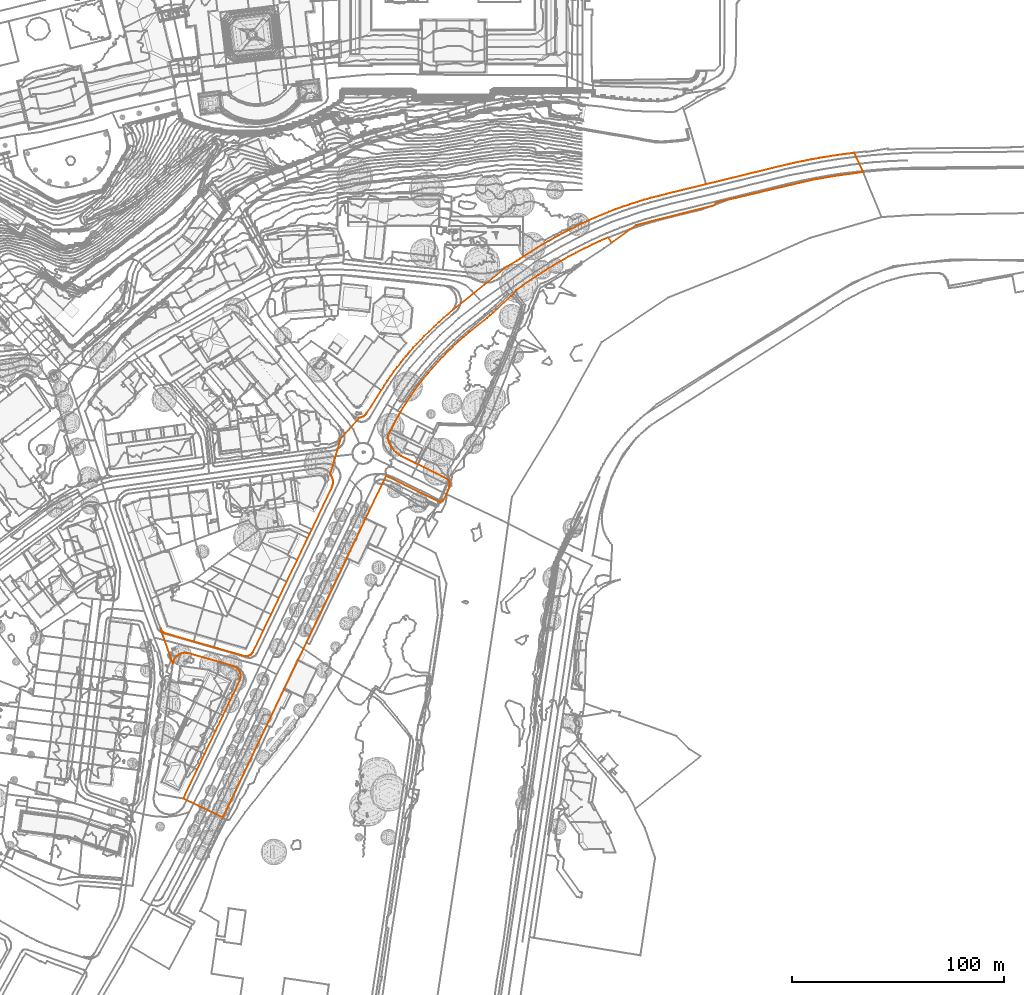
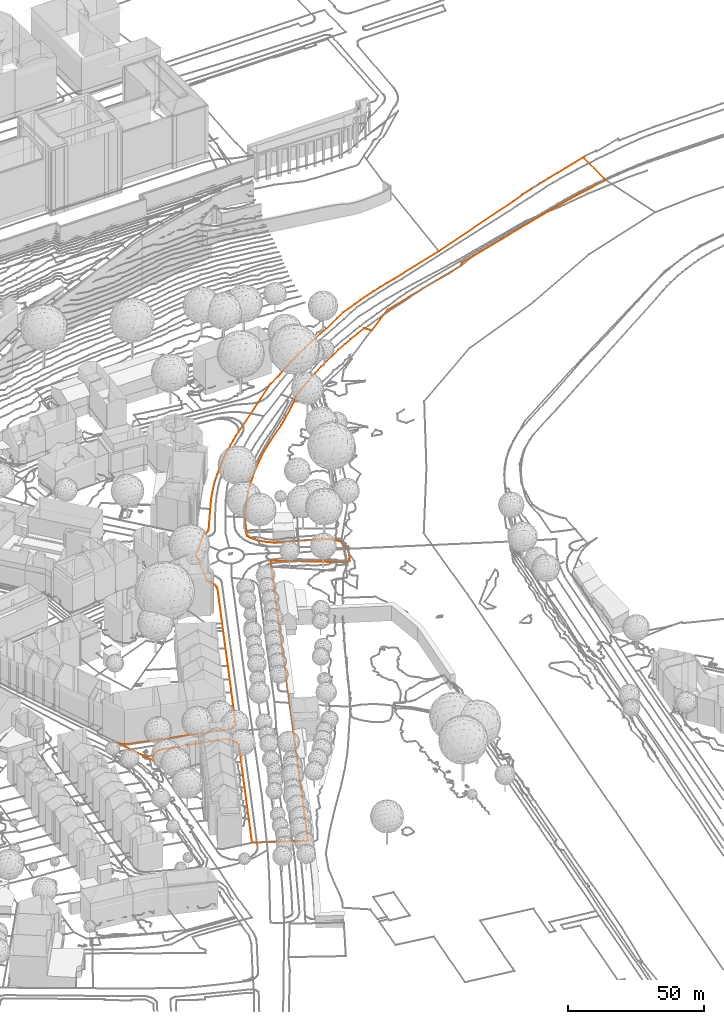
# Not in any storey, part 194 of 494: 1 proxy.
"""IFC2X3 model written with IfcOpenShell, lengths in metres."""

from ifc_helpers import new_model, entity, si_unit, frame, origin_with_axes, place, context, subcontext, project, element, save


model = new_model("IFC2X3")

# Units and contexts
model_context = context("Model", 3, precision=1e-05, world=origin_with_axes())
body_context = subcontext(model_context, "Body", "Model", "MODEL_VIEW")
ifc_project = project(units=[si_unit("AREAUNIT", "SQUARE_METRE"), si_unit("LENGTHUNIT", "METRE")], contexts=[model_context])

# Proxy
proxy_placement = place(None, frame((488.9107320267, 106.9207160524, 502.2250118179), z_axis=(0.0, 0.0, 1.0), x_axis=(1.0, 0.0, 0.0)))
element("IfcBuildingElementProxy", 1, at=proxy_placement, Name="Cadastre 116", ObjectType="NOTDEFINED", context=body_context, shape_type="GeometricCurveSet", body=[
    entity("IfcGeometricCurveSet", [entity("IfcPolyline", [entity("IfcCartesianPoint", [0.0, 0.0, 0.0]), entity("IfcCartesianPoint", [0.233, -0.544, -0.0039282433]), entity("IfcCartesianPoint", [0.5350000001, -1.054, -0.0188884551]), entity("IfcCartesianPoint", [0.8999999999, -1.52, -0.045437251]), entity("IfcCartesianPoint", [1.23, -1.8189999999, -0.067840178]), entity("IfcCartesianPoint", [1.5899999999, -2.0819999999, -0.0652185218]), entity("IfcCartesianPoint", [1.9739999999, -2.3059999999, -0.0197665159]), entity("IfcCartesianPoint", [2.3799999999, -2.49, -0.0059848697]), entity("IfcCartesianPoint", [15.6979999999, -6.3200000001, -0.0504612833]), entity("IfcCartesianPoint", [25.2680000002, -9.0700000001, 0.1001833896]), entity("IfcCartesianPoint", [39.5460000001, -13.1799999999, 0.0694859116]), entity("IfcCartesianPoint", [40.0279999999, -13.277, 0.0698380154]), entity("IfcCartesianPoint", [40.5189999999, -13.3089999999, 0.0808435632]), entity("IfcCartesianPoint", [41.0100000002, -13.274, 0.0967271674]), entity("IfcCartesianPoint", [41.4920000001, -13.1739999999, 0.1170097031]), entity("IfcCartesianPoint", [41.9560000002, -13.01, 0.1400230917]), entity("IfcCartesianPoint", [42.3859999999, -12.78, 0.1683778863]), entity("IfcCartesianPoint", [42.7820000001, -12.4939999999, 0.1962970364]), entity("IfcCartesianPoint", [43.1359999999, -12.1580000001, 0.2162374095]), entity("IfcCartesianPoint", [43.4420000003, -11.7779999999, 0.2343439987]), entity("IfcCartesianPoint", [43.6949999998, -11.3599999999, 0.2527268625]), entity("IfcCartesianPoint", [48.5640000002, -1.199, 0.2967724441]), entity("IfcCartesianPoint", [52.2439999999, 6.4710000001, 0.3085184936]), entity("IfcCartesianPoint", [55.9530000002, 14.2110000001, 0.2364327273]), entity("IfcCartesianPoint", [59.6520000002, 21.9410000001, 0.2159597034]), entity("IfcCartesianPoint", [70.4100000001, 44.382, 0.0998148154]), entity("IfcCartesianPoint", [71.5, 46.642, 0.1432449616]), entity("IfcCartesianPoint", [80.9180000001, 66.2930000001, 0.1682741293]), entity("IfcCartesianPoint", [81.1839999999, 66.9410000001, 0.1559326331]), entity("IfcCartesianPoint", [81.3799999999, 67.6140000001, 0.1561602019]), entity("IfcCartesianPoint", [81.5019999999, 68.3030000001, 0.1585750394]), entity("IfcCartesianPoint", [81.551, 69.0020000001, 0.1735173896]), entity("IfcCartesianPoint", [81.5240000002, 69.702, 0.2105089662]), entity("IfcCartesianPoint", [81.423, 70.395, 0.2264767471]), entity("IfcCartesianPoint", [81.2480000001, 71.074, 0.2442947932]), entity("IfcCartesianPoint", [81.0019999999, 71.7290000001, 0.3076877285]), entity("IfcCartesianPoint", [80.6880000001, 72.355, 0.3529058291]), entity("IfcCartesianPoint", [80.3080000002, 72.9440000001, 0.3657182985]), entity("IfcCartesianPoint", [85.2069999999, 89.5150000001, 0.3450140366]), entity("IfcCartesianPoint", [93.997, 99.507, 0.4002360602]), entity("IfcCartesianPoint", [94.5869999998, 99.5889999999, 0.3911777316]), entity("IfcCartesianPoint", [95.1609999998, 99.75, 0.3837855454]), entity("IfcCartesianPoint", [95.7080000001, 99.9850000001, 0.3953497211]), entity("IfcCartesianPoint", [96.219, 100.2920000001, 0.3955752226]), entity("IfcCartesianPoint", [96.6839999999, 100.6640000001, 0.3888778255]), entity("IfcCartesianPoint", [97.0959999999, 101.095, 0.3957712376]), entity("IfcCartesianPoint", [97.446, 101.577, 0.4009718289]), entity("IfcCartesianPoint", [99.486, 104.7879999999, 0.4029960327]), entity("IfcCartesianPoint", [104.355, 112.389, 0.3442920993]), entity("IfcCartesianPoint", [105.7620000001, 114.622, 0.3481246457]), entity("IfcCartesianPoint", [107.2110000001, 116.828, 0.3306323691]), entity("IfcCartesianPoint", [108.7039999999, 119.0050000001, 0.3053488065]), entity("IfcCartesianPoint", [110.2379999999, 121.1529999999, 0.3070003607]), entity("IfcCartesianPoint", [111.8140000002, 123.27, 0.2886427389]), entity("IfcCartesianPoint", [113.7600000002, 125.767, 0.2454882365]), entity("IfcCartesianPoint", [115.7630000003, 128.2180000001, 0.2476532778]), entity("IfcCartesianPoint", [117.824, 130.621, 0.2012455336]), entity("IfcCartesianPoint", [119.4870000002, 132.496, 0.1540231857]), entity("IfcCartesianPoint", [121.1850000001, 134.3400000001, 0.1146757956]), entity("IfcCartesianPoint", [122.9169999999, 136.152, 0.1170354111]), entity("IfcCartesianPoint", [124.6830000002, 137.932, 0.1181130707]), entity("IfcCartesianPoint", [126.9840000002, 140.2380000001, 0.1049187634]), entity("IfcCartesianPoint", [129.3280000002, 142.5020000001, 0.1164811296]), entity("IfcCartesianPoint", [131.7119999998, 144.723, 0.1100668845]), entity("IfcCartesianPoint", [133.8870000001, 146.6799999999, 0.1182599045]), entity("IfcCartesianPoint", [136.094, 148.6000000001, 0.0955614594]), entity("IfcCartesianPoint", [138.3319999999, 150.4839999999, 0.0880390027]), entity("IfcCartesianPoint", [163.8190000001, 170.942, 0.4151730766]), entity("IfcCartesianPoint", [168.5989999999, 173.6780000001, 0.401261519]), entity("IfcCartesianPoint", [170.0279999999, 174.6500000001, 0.3904525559]), entity("IfcCartesianPoint", [171.4649999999, 175.611, 0.3862559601]), entity("IfcCartesianPoint", [174.4220000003, 177.534, 0.3855604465]), entity("IfcCartesianPoint", [177.4100000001, 179.4070000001, 0.4067722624]), entity("IfcCartesianPoint", [180.4300000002, 181.23, 0.4215103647]), entity("IfcCartesianPoint", [183.4789999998, 183.0020000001, 0.4536202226]), entity("IfcCartesianPoint", [186.5580000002, 184.7220000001, 0.4751384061]), entity("IfcCartesianPoint", [189.6660000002, 186.3900000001, 0.4883446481]), entity("IfcCartesianPoint", [192.77, 188.031, 0.4893652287]), entity("IfcCartesianPoint", [195.9020000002, 189.6189999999, 0.4898440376]), entity("IfcCartesianPoint", [199.0600000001, 191.155, 0.5342730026]), entity("IfcCartesianPoint", [202.2420000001, 192.638, 0.8024908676]), entity("IfcCartesianPoint", [205.4500000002, 194.067, 1.3710353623]), entity("IfcCartesianPoint", [208.6809999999, 195.442, 1.8010212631]), entity("IfcCartesianPoint", [211.9339999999, 196.763, 1.8202647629]), entity("IfcCartesianPoint", [215.2220000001, 198.0060000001, 1.8785860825]), entity("IfcCartesianPoint", [218.5300000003, 199.1950000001, 1.9043203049]), entity("IfcCartesianPoint", [221.8569999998, 200.327, 2.0016997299]), entity("IfcCartesianPoint", [225.2039999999, 201.4029999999, 2.0708905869]), entity("IfcCartesianPoint", [228.5670000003, 202.423, 2.1023938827]), entity("IfcCartesianPoint", [231.9479999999, 203.3870000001, 2.1653035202]), entity("IfcCartesianPoint", [235.344, 204.2930000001, 2.21798452]), entity("IfcCartesianPoint", [257.906, 209.8119999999, 3.6311072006]), entity("IfcCartesianPoint", [294.909, 218.8730000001, 7.6492834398]), entity("IfcCartesianPoint", [299.0860000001, 219.8119999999, 8.453008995]), entity("IfcCartesianPoint", [303.2760000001, 220.6940000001, 8.9941114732]), entity("IfcCartesianPoint", [307.4780000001, 221.5179999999, 9.4353187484]), entity("IfcCartesianPoint", [311.6910000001, 222.2830000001, 9.9729201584]), entity("IfcCartesianPoint", [315.73, 222.9539999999, 10.4958915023]), entity("IfcCartesianPoint", [319.7779999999, 223.5719999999, 10.9794583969]), entity("IfcCartesianPoint", [323.8330000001, 224.1370000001, 11.671531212]), entity("IfcCartesianPoint", [327.8960000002, 224.648, 12.4014465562]), entity("IfcCartesianPoint", [332.173, 215.5719999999, 5.9960027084]), entity("IfcCartesianPoint", [318.8620000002, 213.7120000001, 5.0900056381]), entity("IfcCartesianPoint", [308.2710000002, 211.872, 4.2491189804]), entity("IfcCartesianPoint", [262.557, 201.1410000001, 2.0612159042]), entity("IfcCartesianPoint", [261.4369999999, 199.7210000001, 1.9383350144]), entity("IfcCartesianPoint", [224.824, 190.473, 0.4921100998]), entity("IfcCartesianPoint", [213.3140000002, 182.172, 0.2908956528]), entity("IfcCartesianPoint", [211.514, 184.672, 0.3553947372]), entity("IfcCartesianPoint", [207.6890000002, 182.9820000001, 0.2719366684]), entity("IfcCartesianPoint", [203.8969999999, 181.219, 0.3274793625]), entity("IfcCartesianPoint", [200.139, 179.385, 0.3650869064]), entity("IfcCartesianPoint", [196.4160000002, 177.48, 0.3013289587]), entity("IfcCartesianPoint", [192.7379999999, 175.497, 0.2722796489]), entity("IfcCartesianPoint", [189.0980000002, 173.446, 0.2241165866]), entity("IfcCartesianPoint", [185.497, 171.3260000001, 0.2576722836]), entity("IfcCartesianPoint", [181.9369999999, 169.139, 0.2465030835]), entity("IfcCartesianPoint", [178.4190000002, 166.892, 0.2417304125]), entity("IfcCartesianPoint", [174.9440000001, 164.5789999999, 0.1379128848]), entity("IfcCartesianPoint", [171.514, 162.2, 0.1247272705]), entity("IfcCartesianPoint", [168.1290000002, 159.757, 0.1554030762]), entity("IfcCartesianPoint", [165.7489999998, 157.0260000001, 0.0872396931]), entity("IfcCartesianPoint", [158.6699999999, 150.4550000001, 0.0123942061]), entity("IfcCartesianPoint", [157.2489999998, 149.142, 0.00314156]), entity("IfcCartesianPoint", [155.7919999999, 147.868, -0.0189717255]), entity("IfcCartesianPoint", [154.3000000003, 146.635, -0.0426575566]), entity("IfcCartesianPoint", [145.9109999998, 139.8640000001, -0.0047096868]), entity("IfcCartesianPoint", [143.2940000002, 137.649, 0.0053960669]), entity("IfcCartesianPoint", [140.7289999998, 135.375, 0.006131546]), entity("IfcCartesianPoint", [138.216, 133.044, 0.0440777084]), entity("IfcCartesianPoint", [135.7560000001, 130.656, 0.0408661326]), entity("IfcCartesianPoint", [133.352, 128.2120000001, 0.059987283]), entity("IfcCartesianPoint", [131.003, 125.7210000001, 0.0918045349]), entity("IfcCartesianPoint", [128.7119999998, 123.1769999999, 0.1313855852]), entity("IfcCartesianPoint", [126.4789999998, 120.581, 0.1347862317]), entity("IfcCartesianPoint", [124.3059999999, 117.9350000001, 0.2221579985]), entity("IfcCartesianPoint", [122.1940000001, 115.24, 0.2260396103]), entity("IfcCartesianPoint", [120.1680000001, 112.476, 0.2544825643]), entity("IfcCartesianPoint", [118.2069999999, 109.666, 0.2538025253]), entity("IfcCartesianPoint", [116.3100000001, 106.8130000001, 0.2682848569]), entity("IfcCartesianPoint", [114.4789999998, 103.916, 0.2221907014]), entity("IfcCartesianPoint", [112.7149999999, 100.9780000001, 0.3321680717]), entity("IfcCartesianPoint", [109.3850000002, 94.648, 0.462652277]), entity("IfcCartesianPoint", [107.2650000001, 90.307, 0.660940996]), entity("IfcCartesianPoint", [107.5350000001, 89.3130000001, 0.6990580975]), entity("IfcCartesianPoint", [107.8760000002, 88.3419999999, 0.7458533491]), entity("IfcCartesianPoint", [108.284, 87.3959999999, 0.7680284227]), entity("IfcCartesianPoint", [108.7579999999, 86.4820000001, 0.8124154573]), entity("IfcCartesianPoint", [109.2960000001, 85.605, 0.8177822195]), entity("IfcCartesianPoint", [109.895, 84.767, 0.82142027]), entity("IfcCartesianPoint", [110.554, 83.9750000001, 0.848887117]), entity("IfcCartesianPoint", [111.2680000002, 83.2309999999, 0.8604662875]), entity("IfcCartesianPoint", [112.034, 82.54, 0.8754581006]), entity("IfcCartesianPoint", [112.8459999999, 81.906, 0.9146734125]), entity("IfcCartesianPoint", [113.7009999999, 81.3300000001, 0.9510052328]), entity("IfcCartesianPoint", [114.5950000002, 80.817, 0.9901166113]), entity("IfcCartesianPoint", [131.3539999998, 72.578, 1.6682158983]), entity("IfcCartesianPoint", [135.8130000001, 70.4280000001, 0.2082295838]), entity("IfcCartesianPoint", [136.1290000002, 69.9680000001, -0.7820893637]), entity("IfcCartesianPoint", [136.3799999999, 69.4680000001, -1.2308779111]), entity("IfcCartesianPoint", [136.5610000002, 68.9399999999, -1.2550156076]), entity("IfcCartesianPoint", [136.6680000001, 68.392, -1.2442070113]), entity("IfcCartesianPoint", [136.7000000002, 67.834, -1.220702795]), entity("IfcCartesianPoint", [136.6550000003, 67.277, -1.2431613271]), entity("IfcCartesianPoint", [136.5359999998, 66.7309999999, -1.2687302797]), entity("IfcCartesianPoint", [136.3429999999, 66.2069999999, -1.2633031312]), entity("IfcCartesianPoint", [136.503, 66.1370000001, -1.2696449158]), entity("IfcCartesianPoint", [133.8739999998, 60.747, -1.2117294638]), entity("IfcCartesianPoint", [133.7039999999, 60.8370000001, -1.2089868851]), entity("IfcCartesianPoint", [132.3640000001, 59.3570000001, -1.2001666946]), entity("IfcCartesianPoint", [106.6159999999, 71.946, 0.8811907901]), entity("IfcCartesianPoint", [96.932, 51.6940000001, 0.3384607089]), entity("IfcCartesianPoint", [88.031, 33.0789999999, 0.3173263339]), entity("IfcCartesianPoint", [29.4010000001, -89.5109999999, -0.0624867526]), entity("IfcCartesianPoint", [29.2910000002, -89.4609999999, -0.0516580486]), entity("IfcCartesianPoint", [10.7630000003, -80.5209999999, 0.0755245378]), entity("IfcCartesianPoint", [17.304, -66.841, 0.0913858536]), entity("IfcCartesianPoint", [20.7940000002, -59.551, 0.1221076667]), entity("IfcCartesianPoint", [25.9950000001, -48.6809999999, 0.1666406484]), entity("IfcCartesianPoint", [29.5049999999, -41.3599999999, 0.1488110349]), entity("IfcCartesianPoint", [32.9960000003, -34.0700000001, 0.175993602]), entity("IfcCartesianPoint", [37.4160000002, -24.8200000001, 0.2713357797]), entity("IfcCartesianPoint", [37.6490000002, -24.2449999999, 0.3141484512]), entity("IfcCartesianPoint", [37.8080000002, -23.645, 0.2663375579]), entity("IfcCartesianPoint", [37.8930000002, -23.031, 0.2376749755]), entity("IfcCartesianPoint", [37.8999999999, -22.4099999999, 0.2320494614]), entity("IfcCartesianPoint", [37.8300000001, -21.794, 0.2250177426]), entity("IfcCartesianPoint", [37.6850000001, -21.1899999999, 0.224522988]), entity("IfcCartesianPoint", [37.466, -20.6099999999, 0.1980056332]), entity("IfcCartesianPoint", [37.176, -20.0619999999, 0.1898818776]), entity("IfcCartesianPoint", [36.8199999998, -19.5530000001, 0.2545755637]), entity("IfcCartesianPoint", [36.4040000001, -19.0929999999, 0.3155485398]), entity("IfcCartesianPoint", [35.9339999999, -18.6880000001, 0.3069553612]), entity("IfcCartesianPoint", [35.4169999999, -18.344, 0.2757039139]), entity("IfcCartesianPoint", [34.8620000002, -18.0659999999, 0.2806597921]), entity("IfcCartesianPoint", [34.2770000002, -17.8599999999, 0.3039724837]), entity("IfcCartesianPoint", [13.2990000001, -11.8999999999, -0.1938284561]), entity("IfcCartesianPoint", [12.6910000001, -11.76, -0.2158324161]), entity("IfcCartesianPoint", [12.0720000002, -11.686, -0.2156046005]), entity("IfcCartesianPoint", [11.4479999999, -11.6780000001, -0.157252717]), entity("IfcCartesianPoint", [10.827, -11.736, -0.1246550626]), entity("IfcCartesianPoint", [10.216, -11.8599999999, -0.1130802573]), entity("IfcCartesianPoint", [9.6210000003, -12.0489999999, -0.17431489]), entity("IfcCartesianPoint", [9.0500000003, -12.3, -0.2227796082]), entity("IfcCartesianPoint", [8.5090000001, -12.6099999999, -0.2263185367]), entity("IfcCartesianPoint", [8.0040000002, -12.977, -0.2301306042]), entity("IfcCartesianPoint", [7.5410000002, -13.395, -0.2400533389]), entity("IfcCartesianPoint", [7.1260000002, -13.8599999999, -0.267277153]), entity("IfcCartesianPoint", [6.7620000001, -14.3670000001, -0.2968318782]), entity("IfcCartesianPoint", [6.4539999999, -14.9099999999, -0.2664071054]), entity("IfcCartesianPoint", [6.2060000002, -15.4820000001, -0.2261492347]), entity("IfcCartesianPoint", [6.02, -16.078, -0.2112962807]), entity("IfcCartesianPoint", [5.8990000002, -16.6899999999, -0.198704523]), entity("IfcCartesianPoint", [0.0, 0.0, 0.0])])]),
])

save(model, "model.ifc")
